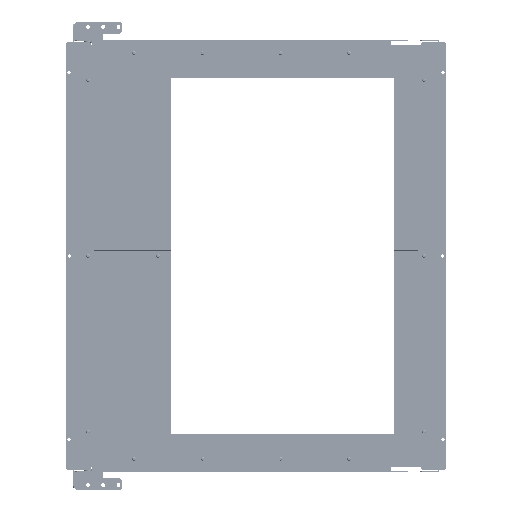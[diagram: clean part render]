
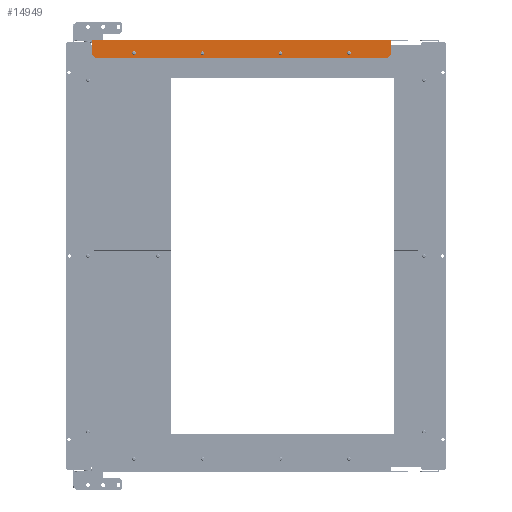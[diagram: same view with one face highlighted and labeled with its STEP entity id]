
A CAD part, left-side view. The second image highlights one B-rep face of the part: STEP entity #14949.
In plain terms, the highlighted planar face has unit normal (-1, 0, 0).
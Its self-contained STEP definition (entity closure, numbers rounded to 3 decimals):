
#1857 = LINE ( 'NONE', #36990, #81413 ) ;
#2491 = VECTOR ( 'NONE', #105631, 1000. ) ;
#4053 = CIRCLE ( 'NONE', #24271, 3. ) ;
#4791 = CARTESIAN_POINT ( 'NONE',  ( -158., -430.399, 331.229 ) ) ;
#6030 = DIRECTION ( 'NONE',  ( 0., -1., 0. ) ) ;
#6108 = CIRCLE ( 'NONE', #35519, 3. ) ;
#7976 = EDGE_CURVE ( 'NONE', #44352, #91214, #9059, .T. ) ;
#8520 = DIRECTION ( 'NONE',  ( 0., 0., 1. ) ) ;
#9059 = LINE ( 'NONE', #72401, #49116 ) ;
#9441 = LINE ( 'NONE', #80284, #2491 ) ;
#9490 = CARTESIAN_POINT ( 'NONE',  ( -158., -184.512, 331.733 ) ) ;
#10583 = VERTEX_POINT ( 'NONE', #9490 ) ;
#11089 = ORIENTED_EDGE ( 'NONE', *, *, #91196, .F. ) ;
#11519 = CARTESIAN_POINT ( 'NONE',  ( -158., -75., 332. ) ) ;
#12068 = DIRECTION ( 'NONE',  ( -1., 0., 0. ) ) ;
#13838 = EDGE_CURVE ( 'NONE', #47699, #95379, #1857, .T. ) ;
#14301 = ORIENTED_EDGE ( 'NONE', *, *, #74537, .F. ) ;
#14949 = ADVANCED_FACE ( 'NONE', ( #15225, #86632, #42282, #113105, #41729 ), #103341, .F. ) ;
#15143 = CIRCLE ( 'NONE', #105245, 3. ) ;
#15225 = FACE_BOUND ( 'NONE', #54239, .T. ) ;
#17052 = CARTESIAN_POINT ( 'NONE',  ( -158., -491., 324.5 ) ) ;
#17062 = LINE ( 'NONE', #103490, #39125 ) ;
#17904 = CIRCLE ( 'NONE', #71267, 3. ) ;
#20249 = CARTESIAN_POINT ( 'NONE',  ( -158., -496., 329.5 ) ) ;
#20374 = DIRECTION ( 'NONE',  ( 0., 1., 0. ) ) ;
#20492 = EDGE_LOOP ( 'NONE', ( #110991, #56279 ) ) ;
#20676 = VERTEX_POINT ( 'NONE', #95623 ) ;
#20703 = DIRECTION ( 'NONE',  ( 0., 1., 0. ) ) ;
#23818 = CARTESIAN_POINT ( 'NONE',  ( -158., -427.5, 332. ) ) ;
#24271 = AXIS2_PLACEMENT_3D ( 'NONE', #57594, #39743, #111706 ) ;
#24317 = VECTOR ( 'NONE', #6030, 1000. ) ;
#25249 = EDGE_CURVE ( 'NONE', #44776, #44352, #105661, .T. ) ;
#25375 = EDGE_CURVE ( 'NONE', #51927, #10583, #35213, .T. ) ;
#26339 = EDGE_LOOP ( 'NONE', ( #89163, #34134 ) ) ;
#28533 = ORIENTED_EDGE ( 'NONE', *, *, #66736, .F. ) ;
#30119 = AXIS2_PLACEMENT_3D ( 'NONE', #43408, #42843, #59575 ) ;
#32090 = DIRECTION ( 'NONE',  ( 0., 1., 0. ) ) ;
#33713 = CARTESIAN_POINT ( 'NONE',  ( -158., -424.601, 332.771 ) ) ;
#34134 = ORIENTED_EDGE ( 'NONE', *, *, #25375, .F. ) ;
#34362 = VERTEX_POINT ( 'NONE', #38130 ) ;
#35213 = CIRCLE ( 'NONE', #68280, 3. ) ;
#35519 = AXIS2_PLACEMENT_3D ( 'NONE', #23818, #49738, #67041 ) ;
#36526 = DIRECTION ( 'NONE',  ( 0., 0., -1. ) ) ;
#36990 = CARTESIAN_POINT ( 'NONE',  ( -158., -496., 354. ) ) ;
#38130 = CARTESIAN_POINT ( 'NONE',  ( -158., -317.989, 331.744 ) ) ;
#38200 = CARTESIAN_POINT ( 'NONE',  ( -158., -312.011, 332.256 ) ) ;
#39125 = VECTOR ( 'NONE', #68934, 1000. ) ;
#39743 = DIRECTION ( 'NONE',  ( -1., 0., 0. ) ) ;
#39970 = CARTESIAN_POINT ( 'NONE',  ( -158., -187.5, 332. ) ) ;
#41729 = FACE_OUTER_BOUND ( 'NONE', #101336, .T. ) ;
#42282 = FACE_BOUND ( 'NONE', #20492, .T. ) ;
#42843 = DIRECTION ( 'NONE',  ( 1., 0., 0. ) ) ;
#42885 = ORIENTED_EDGE ( 'NONE', *, *, #13838, .T. ) ;
#43206 = CIRCLE ( 'NONE', #72639, 3. ) ;
#43408 = CARTESIAN_POINT ( 'NONE',  ( -158., -251.25, 354. ) ) ;
#44352 = VERTEX_POINT ( 'NONE', #75751 ) ;
#44776 = VERTEX_POINT ( 'NONE', #100972 ) ;
#45290 = ORIENTED_EDGE ( 'NONE', *, *, #67936, .F. ) ;
#46988 = CIRCLE ( 'NONE', #109564, 3. ) ;
#47699 = VERTEX_POINT ( 'NONE', #20249 ) ;
#48240 = CARTESIAN_POINT ( 'NONE',  ( -158., -75., 332. ) ) ;
#48662 = LINE ( 'NONE', #83809, #86973 ) ;
#49116 = VECTOR ( 'NONE', #107517, 1000. ) ;
#49738 = DIRECTION ( 'NONE',  ( -1., 0., 0. ) ) ;
#50095 = DIRECTION ( 'NONE',  ( 0., 1., 0. ) ) ;
#50180 = LINE ( 'NONE', #53402, #56314 ) ;
#50697 = CIRCLE ( 'NONE', #59911, 3. ) ;
#51222 = CARTESIAN_POINT ( 'NONE',  ( -158., -11.5, 324.5 ) ) ;
#51927 = VERTEX_POINT ( 'NONE', #67469 ) ;
#53402 = CARTESIAN_POINT ( 'NONE',  ( -158., -496., 351.5 ) ) ;
#53967 = EDGE_CURVE ( 'NONE', #111718, #103037, #15143, .T. ) ;
#53993 = VERTEX_POINT ( 'NONE', #17052 ) ;
#54239 = EDGE_LOOP ( 'NONE', ( #14301, #89696 ) ) ;
#54728 = EDGE_CURVE ( 'NONE', #34362, #94465, #4053, .T. ) ;
#56279 = ORIENTED_EDGE ( 'NONE', *, *, #61449, .F. ) ;
#56308 = EDGE_CURVE ( 'NONE', #89318, #97130, #6108, .T. ) ;
#56314 = VECTOR ( 'NONE', #8520, 1000. ) ;
#57594 = CARTESIAN_POINT ( 'NONE',  ( -158., -315., 332. ) ) ;
#58080 = DIRECTION ( 'NONE',  ( 0., 1., 0. ) ) ;
#59575 = DIRECTION ( 'NONE',  ( 0., 0., -1. ) ) ;
#59911 = AXIS2_PLACEMENT_3D ( 'NONE', #99621, #12068, #20703 ) ;
#60108 = EDGE_CURVE ( 'NONE', #95379, #20676, #50180, .T. ) ;
#60673 = DIRECTION ( 'NONE',  ( 0., 0., 1. ) ) ;
#61449 = EDGE_CURVE ( 'NONE', #103037, #111718, #17904, .T. ) ;
#65149 = VERTEX_POINT ( 'NONE', #86189 ) ;
#65596 = DIRECTION ( 'NONE',  ( -1., 0., 0. ) ) ;
#66736 = EDGE_CURVE ( 'NONE', #65149, #20676, #93017, .T. ) ;
#66824 = EDGE_CURVE ( 'NONE', #91214, #53993, #48662, .T. ) ;
#67041 = DIRECTION ( 'NONE',  ( 0., 1., 0. ) ) ;
#67469 = CARTESIAN_POINT ( 'NONE',  ( -158., -190.488, 332.267 ) ) ;
#67936 = EDGE_CURVE ( 'NONE', #44776, #65149, #9441, .T. ) ;
#68280 = AXIS2_PLACEMENT_3D ( 'NONE', #39970, #99290, #20374 ) ;
#68838 = ORIENTED_EDGE ( 'NONE', *, *, #56308, .F. ) ;
#68934 = DIRECTION ( 'NONE',  ( 0., -0.707, 0.707 ) ) ;
#69053 = EDGE_CURVE ( 'NONE', #10583, #51927, #43206, .T. ) ;
#70105 = CARTESIAN_POINT ( 'NONE',  ( -158., -496., 351.5 ) ) ;
#71267 = AXIS2_PLACEMENT_3D ( 'NONE', #11519, #71461, #99642 ) ;
#71461 = DIRECTION ( 'NONE',  ( -1., 0., 0. ) ) ;
#72401 = CARTESIAN_POINT ( 'NONE',  ( -158., -116.625, 219.375 ) ) ;
#72639 = AXIS2_PLACEMENT_3D ( 'NONE', #110477, #65596, #58080 ) ;
#74537 = EDGE_CURVE ( 'NONE', #94465, #34362, #50697, .T. ) ;
#75163 = DIRECTION ( 'NONE',  ( 0., -1., 0. ) ) ;
#75709 = CARTESIAN_POINT ( 'NONE',  ( -158., -72.104, 331.218 ) ) ;
#75751 = CARTESIAN_POINT ( 'NONE',  ( -158., -6.5, 329.5 ) ) ;
#75901 = EDGE_LOOP ( 'NONE', ( #11089, #68838 ) ) ;
#76595 = CARTESIAN_POINT ( 'NONE',  ( -158., -427.5, 332. ) ) ;
#76831 = CARTESIAN_POINT ( 'NONE',  ( -158., -77.896, 332.782 ) ) ;
#78294 = DIRECTION ( 'NONE',  ( -1., 0., 0. ) ) ;
#79730 = ORIENTED_EDGE ( 'NONE', *, *, #25249, .T. ) ;
#80284 = CARTESIAN_POINT ( 'NONE',  ( -158., -6.5, 351.5 ) ) ;
#81413 = VECTOR ( 'NONE', #60673, 1000. ) ;
#83384 = DIRECTION ( 'NONE',  ( -1., 0., 0. ) ) ;
#83809 = CARTESIAN_POINT ( 'NONE',  ( -158., -251.25, 324.5 ) ) ;
#86189 = CARTESIAN_POINT ( 'NONE',  ( -158., -6.5, 354. ) ) ;
#86632 = FACE_BOUND ( 'NONE', #75901, .T. ) ;
#86973 = VECTOR ( 'NONE', #75163, 1000. ) ;
#87280 = CARTESIAN_POINT ( 'NONE',  ( -158., -6.5, 354. ) ) ;
#87310 = ORIENTED_EDGE ( 'NONE', *, *, #60108, .T. ) ;
#87354 = EDGE_CURVE ( 'NONE', #53993, #47699, #17062, .T. ) ;
#88498 = VECTOR ( 'NONE', #36526, 1000. ) ;
#89163 = ORIENTED_EDGE ( 'NONE', *, *, #69053, .F. ) ;
#89318 = VERTEX_POINT ( 'NONE', #4791 ) ;
#89696 = ORIENTED_EDGE ( 'NONE', *, *, #54728, .F. ) ;
#91196 = EDGE_CURVE ( 'NONE', #97130, #89318, #46988, .T. ) ;
#91214 = VERTEX_POINT ( 'NONE', #51222 ) ;
#93017 = LINE ( 'NONE', #101642, #24317 ) ;
#94025 = ORIENTED_EDGE ( 'NONE', *, *, #7976, .T. ) ;
#94465 = VERTEX_POINT ( 'NONE', #38200 ) ;
#95379 = VERTEX_POINT ( 'NONE', #70105 ) ;
#95623 = CARTESIAN_POINT ( 'NONE',  ( -158., -496., 354. ) ) ;
#96902 = ORIENTED_EDGE ( 'NONE', *, *, #87354, .T. ) ;
#97130 = VERTEX_POINT ( 'NONE', #33713 ) ;
#99290 = DIRECTION ( 'NONE',  ( -1., 0., 0. ) ) ;
#99621 = CARTESIAN_POINT ( 'NONE',  ( -158., -315., 332. ) ) ;
#99642 = DIRECTION ( 'NONE',  ( 0., 1., 0. ) ) ;
#100972 = CARTESIAN_POINT ( 'NONE',  ( -158., -6.5, 351.5 ) ) ;
#101336 = EDGE_LOOP ( 'NONE', ( #28533, #45290, #79730, #94025, #110810, #96902, #42885, #87310 ) ) ;
#101642 = CARTESIAN_POINT ( 'NONE',  ( -158., -251.25, 354. ) ) ;
#103037 = VERTEX_POINT ( 'NONE', #76831 ) ;
#103341 = PLANE ( 'NONE',  #30119 ) ;
#103490 = CARTESIAN_POINT ( 'NONE',  ( -158., -385.875, 219.375 ) ) ;
#105245 = AXIS2_PLACEMENT_3D ( 'NONE', #48240, #83384, #32090 ) ;
#105631 = DIRECTION ( 'NONE',  ( 0., 0., 1. ) ) ;
#105661 = LINE ( 'NONE', #87280, #88498 ) ;
#107517 = DIRECTION ( 'NONE',  ( 0., -0.707, -0.707 ) ) ;
#109564 = AXIS2_PLACEMENT_3D ( 'NONE', #76595, #78294, #50095 ) ;
#110477 = CARTESIAN_POINT ( 'NONE',  ( -158., -187.5, 332. ) ) ;
#110810 = ORIENTED_EDGE ( 'NONE', *, *, #66824, .T. ) ;
#110991 = ORIENTED_EDGE ( 'NONE', *, *, #53967, .F. ) ;
#111706 = DIRECTION ( 'NONE',  ( 0., 1., 0. ) ) ;
#111718 = VERTEX_POINT ( 'NONE', #75709 ) ;
#113105 = FACE_BOUND ( 'NONE', #26339, .T. ) ;
